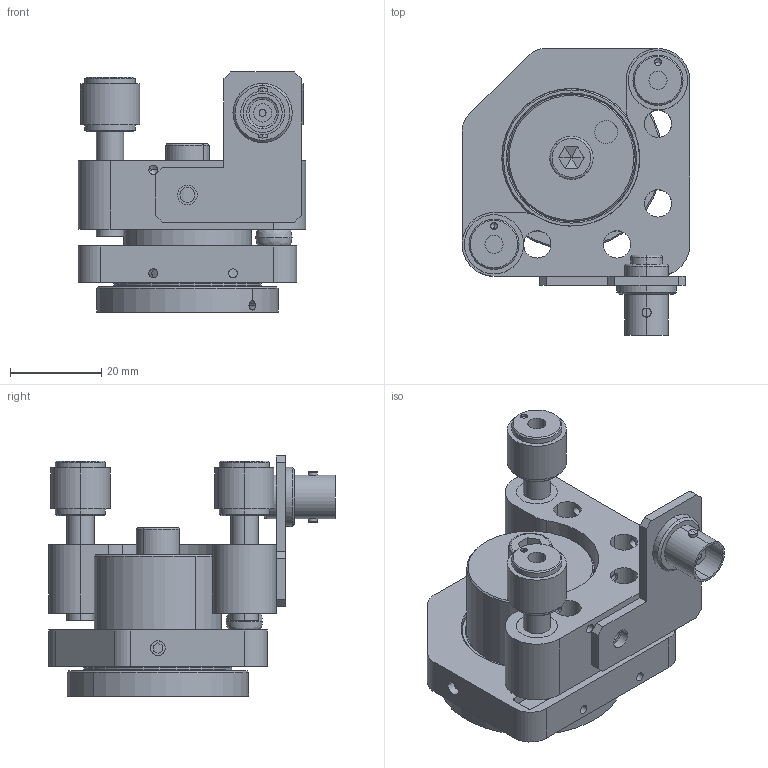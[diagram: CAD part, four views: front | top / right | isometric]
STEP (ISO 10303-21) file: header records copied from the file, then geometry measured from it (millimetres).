
FILE_DESCRIPTION (( 'STEP AP203' ), '1' );
FILE_NAME ('ZT35H80K-3D装配体（内径25）.STEP', '2024-11-28T03:28:19', ( 'Windows User' ), ( 'P R C' ), 'SwSTEP 2.0', 'SolidWorks 2016', '' );
FILE_SCHEMA (( 'CONFIG_CONTROL_DESIGN' ));
Length unit declared in the file: millimetre
Products named in the file (1): ZT35H80K-3D装配体（内径25）
Bounding box: 50 x 63 x 52.71 mm (x, y, z)
Surface area: 24136.6 mm2 (no closed solid volume)
Topology: 0 solids, 23 shells, 275 faces, 772 edges, 507 vertices
Faces by surface type: cylinder 152, plane 74, cone 41, torus 6, bspline 2
Entity records: 10518 total; most frequent: CARTESIAN_POINT 3297, DIRECTION 1527, ORIENTED_EDGE 1384, EDGE_CURVE 756, AXIS2_PLACEMENT_3D 603, VERTEX_POINT 507, EDGE_LOOP 358, CIRCLE 329
